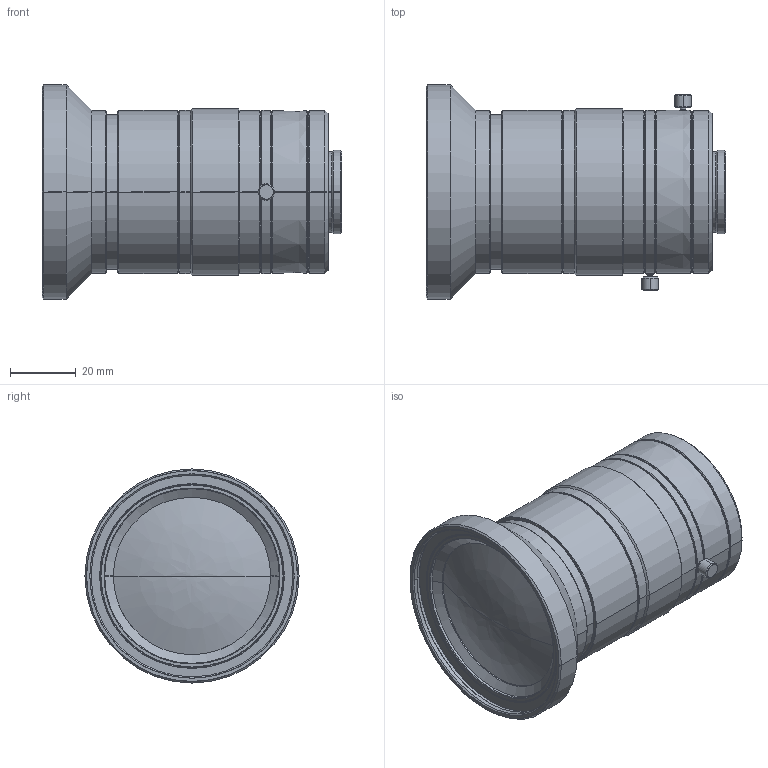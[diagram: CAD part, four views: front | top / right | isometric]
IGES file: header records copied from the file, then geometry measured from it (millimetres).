
Start section: SolidWorks IGES file using analytic representation for surfaces
Global section: file name: \\192.168.200.11\Development\3 製品\1 標準品\01 マクロレンズ\01 VS-LLD series\125 VS-LLD12.5\10.3D外観モデル\VS-LLD12.5.IGS; native system: SolidWorks 2017; preprocessor: SolidWorks 2017; author: uchikawa_vst; date: 170120.001933; units: millimetre
Bounding box: 90.98 x 65 x 65 mm (x, y, z)
Surface area: 29074.2 mm2 (no closed solid volume)
Topology: 0 solids, 0 shells, 192 faces, 3696 edges, 3694 vertices
Faces by surface type: revolution 164, bspline 28
